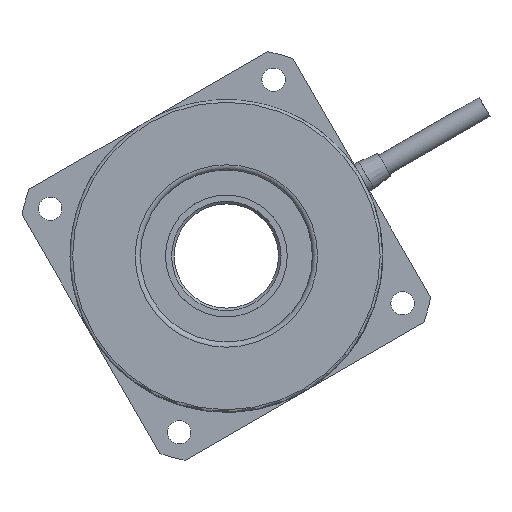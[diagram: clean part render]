
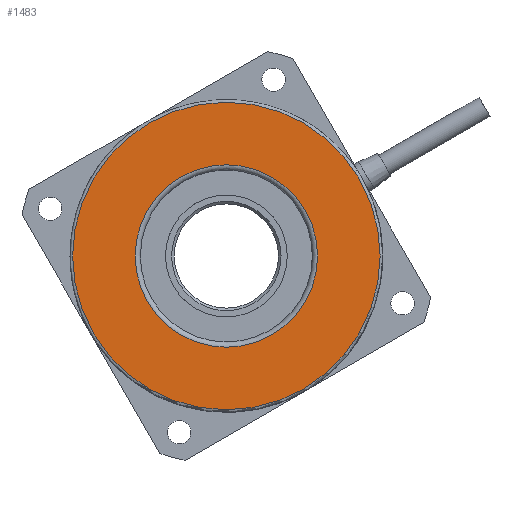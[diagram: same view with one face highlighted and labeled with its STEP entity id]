
A CAD part, left-side view. The second image highlights one B-rep face of the part: STEP entity #1483.
In plain terms, the highlighted planar face has unit normal (-1, 0, 0).
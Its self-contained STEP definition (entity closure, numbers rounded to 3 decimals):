
#1483=ADVANCED_FACE('',(#2326,#2327),#2328,.F.);
#2326=FACE_BOUND('',#3366,.T.);
#2327=FACE_OUTER_BOUND('',#3367,.T.);
#2328=PLANE('',#3368);
#3366=EDGE_LOOP('',(#4817));
#3367=EDGE_LOOP('',(#4818));
#3368=AXIS2_PLACEMENT_3D('',#4819,#4820,#4821);
#4817=ORIENTED_EDGE('',*,*,#6427,.T.);
#4818=ORIENTED_EDGE('',*,*,#6425,.T.);
#4819=CARTESIAN_POINT('',(0.0,23.25,0.0));
#4820=DIRECTION('',(1.0,0.0,0.0));
#4821=DIRECTION('',(0.0,0.0,-1.0));
#6425=EDGE_CURVE('',#7352,#7352,#7353,.F.);
#6427=EDGE_CURVE('',#7355,#7355,#7356,.T.);
#7352=VERTEX_POINT('',#8914);
#7353=CIRCLE('',#8915,29.5);
#7355=VERTEX_POINT('',#8917);
#7356=CIRCLE('',#8918,17.5);
#8914=CARTESIAN_POINT('',(0.0,0.,-29.5));
#8915=AXIS2_PLACEMENT_3D('',#10823,#10824,#10825);
#8917=CARTESIAN_POINT('',(0.0,0.0,-17.5));
#8918=AXIS2_PLACEMENT_3D('',#10826,#10827,#10828);
#10823=CARTESIAN_POINT('',(0.0,0.0,0.0));
#10824=DIRECTION('',(1.0,0.0,0.0));
#10825=DIRECTION('',(0.0,0.0,-1.0));
#10826=CARTESIAN_POINT('',(0.0,0.0,0.0));
#10827=DIRECTION('',(1.0,0.0,0.0));
#10828=DIRECTION('',(0.0,0.0,-1.0));
